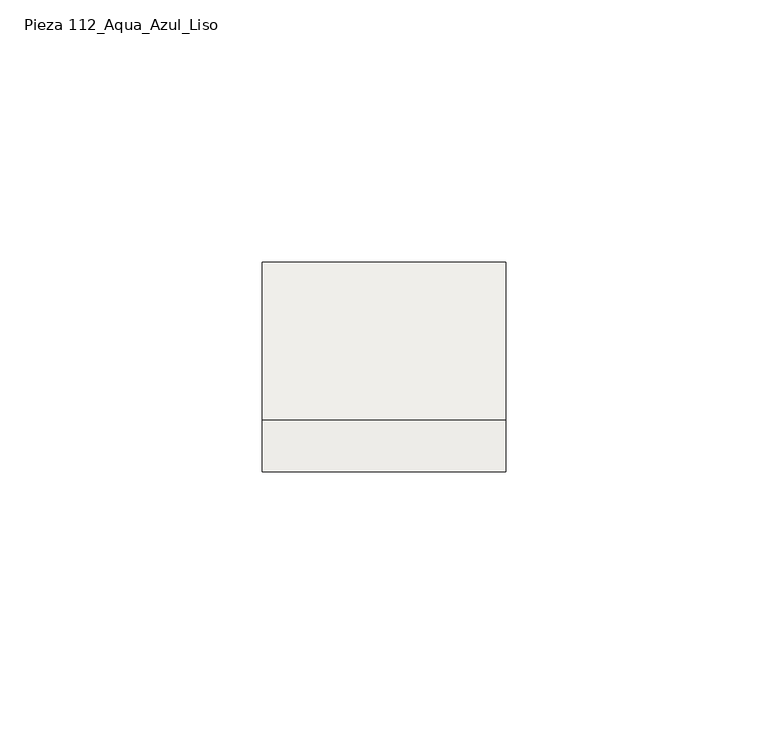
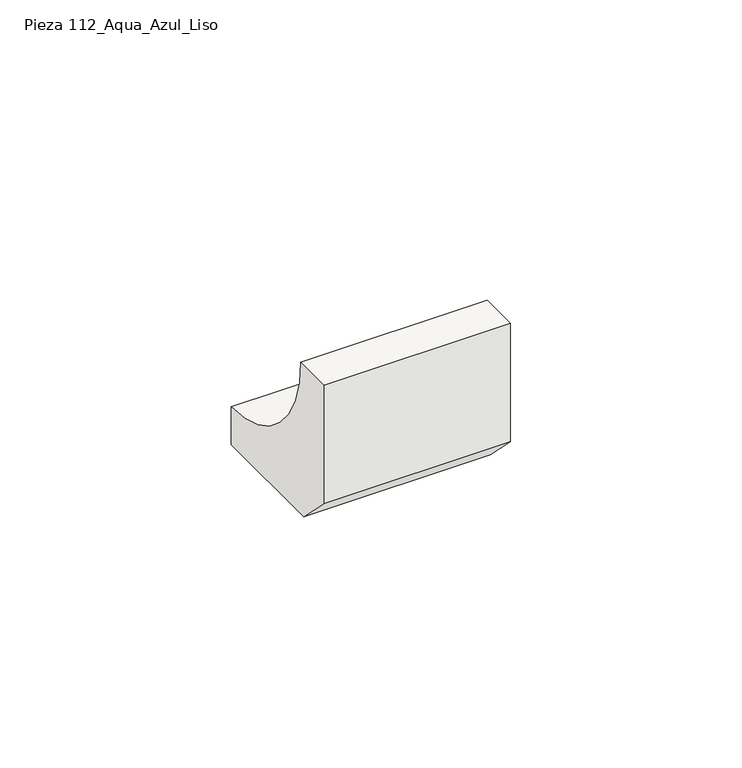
"""IFC4 building model written with IfcOpenShell, lengths in millimetres: slab geometry, ROSA GRES_112 : Pieza 112_Aqua_Azul_Liso."""

from ifc_helpers import new_model, si_unit, point, frame, frame_2d, origin, place, context, project, spatial, polyline, circle_curve, trimmed, segment, composite_curve, outline, extrude, source, transform, mapped, element, save


def pieza_112_aqua_azul_liso_118715ee(model_context):
    return source(origin(), model_context, "Body", "SweptSolid", [
        extrude(outline(composite_curve([segment(polyline([(0.0, 8.7114978), (0.0, 40.0), (9.9734114, 40.0)]), True, "CONTINUOUS"), segment(trimmed(circle_curve(frame_2d((39.9955547, 39.9955547)), 30.0221435), [point((9.9734114, 40.0))], [point((40.0, 9.9734114))], True, "CARTESIAN"), True, "CONTINUOUS"), segment(polyline([(40.0, 9.9734114), (40.0, 0.0), (8.7114978, 0.0), (0.0, 8.7114978)]), True, "CONTINUOUS")], self_intersect=False)), frame((0.0, 0.0, 0.0), z_axis=(1.0, 0.0, 0.0), x_axis=(0.0, 1.0, 0.0)), (0.0, 0.0, 1.0), 46.5),
    ])


if __name__ == "__main__":
    model = new_model("IFC4")
    model_context = context("Model", 3, world=origin())
    ifc_project = project(units=[si_unit("LENGTHUNIT", "METRE", prefix="MILLI")], contexts=[model_context])
    site = spatial("IfcSite", under=ifc_project)
    building = spatial("IfcBuilding", under=site)
    placement = place(None, origin())
    pieza_112_aqua_azul_liso_shape = pieza_112_aqua_azul_liso_118715ee(model_context)
    element("IfcSlab", 1, ObjectType="ROSA GRES_112 : Pieza 112_Aqua_Azul_Liso", at=placement, inside=building, context=model_context, shape_type="MappedRepresentation", body=[
        mapped(pieza_112_aqua_azul_liso_shape, transform((0.0, 0.0, 0.0), x_axis=(1.0, 0.0, 0.0), y_axis=(0.0, 1.0, 0.0), z_axis=(0.0, 0.0, 1.0))),
    ])
    save(model, "model.ifc")
